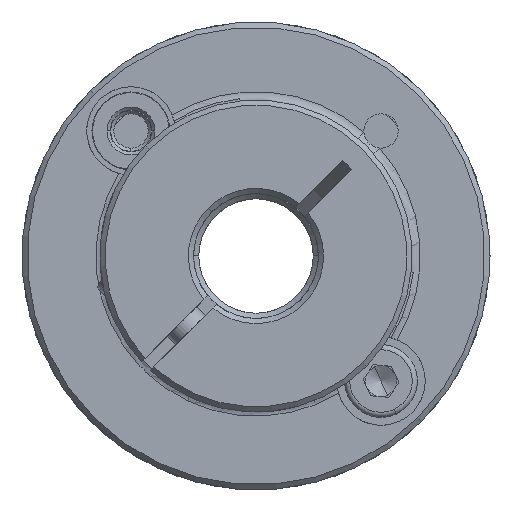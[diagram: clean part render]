
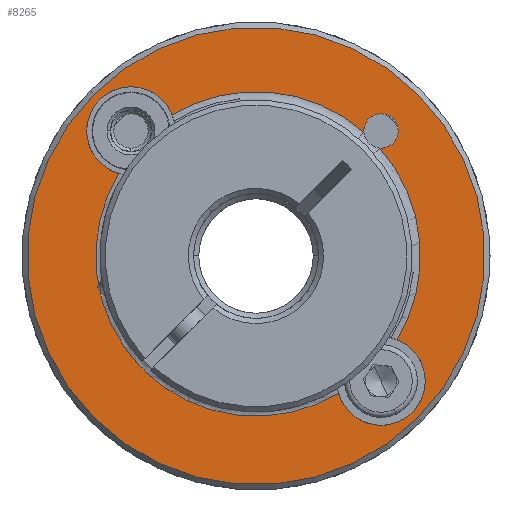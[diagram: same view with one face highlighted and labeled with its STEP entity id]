
A CAD part, front view. The second image highlights one B-rep face of the part: STEP entity #8265.
In plain terms, the highlighted planar face has unit normal (0, -1, 0).
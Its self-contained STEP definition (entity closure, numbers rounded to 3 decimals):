
#76 = CIRCLE ( 'NONE', #4867, 1.65 ) ;
#137 = AXIS2_PLACEMENT_3D ( 'NONE', #14240, #8520, #13227 ) ;
#142 = VERTEX_POINT ( 'NONE', #9589 ) ;
#275 = AXIS2_PLACEMENT_3D ( 'NONE', #4580, #10174, #13629 ) ;
#412 = CIRCLE ( 'NONE', #137, 1.65 ) ;
#425 = CIRCLE ( 'NONE', #6338, 15.8 ) ;
#497 = DIRECTION ( 'NONE',  ( 0., 1., 0. ) ) ;
#612 = CIRCLE ( 'NONE', #1966, 4.25 ) ;
#789 = EDGE_CURVE ( 'NONE', #14453, #14199, #612, .T. ) ;
#947 = EDGE_CURVE ( 'NONE', #7409, #6297, #425, .T. ) ;
#987 = CIRCLE ( 'NONE', #10334, 15.4 ) ;
#1020 = VERTEX_POINT ( 'NONE', #4647 ) ;
#1186 = CARTESIAN_POINT ( 'NONE',  ( 3.11, -12.641, 57.021 ) ) ;
#1312 = EDGE_CURVE ( 'NONE', #1020, #10589, #412, .T. ) ;
#1429 = FACE_OUTER_BOUND ( 'NONE', #9657, .T. ) ;
#1560 = DIRECTION ( 'NONE',  ( 0., 1., 0. ) ) ;
#1642 = CARTESIAN_POINT ( 'NONE',  ( 3.11, -12.641, 32.979 ) ) ;
#1688 = CARTESIAN_POINT ( 'NONE',  ( 3.006, -12.641, 55.374 ) ) ;
#1885 = AXIS2_PLACEMENT_3D ( 'NONE', #9864, #4003, #6342 ) ;
#1966 = AXIS2_PLACEMENT_3D ( 'NONE', #1642, #6188, #10968 ) ;
#2422 = CIRCLE ( 'NONE', #275, 15.8 ) ;
#2481 = EDGE_CURVE ( 'NONE', #10589, #13617, #8256, .T. ) ;
#2535 = DIRECTION ( 'NONE',  ( -0.707, 0., 0.707 ) ) ;
#2661 = EDGE_CURVE ( 'NONE', #10438, #7409, #10398, .T. ) ;
#2699 = CIRCLE ( 'NONE', #11242, 4.25 ) ;
#3198 = ORIENTED_EDGE ( 'NONE', *, *, #789, .T. ) ;
#3587 = DIRECTION ( 'NONE',  ( -0.707, 0., 0.707 ) ) ;
#3631 = DIRECTION ( 'NONE',  ( -0.707, 0., 0.707 ) ) ;
#3673 = VERTEX_POINT ( 'NONE', #3676 ) ;
#3676 = CARTESIAN_POINT ( 'NONE',  ( 6.646, -12.641, 29.444 ) ) ;
#3824 = ORIENTED_EDGE ( 'NONE', *, *, #14471, .T. ) ;
#3914 = DIRECTION ( 'NONE',  ( -0.707, 0., 0.707 ) ) ;
#3968 = EDGE_CURVE ( 'NONE', #142, #9555, #8425, .T. ) ;
#3993 = EDGE_CURVE ( 'NONE', #13617, #14453, #2422, .T. ) ;
#4003 = DIRECTION ( 'NONE',  ( 0., 1., 0. ) ) ;
#4288 = VERTEX_POINT ( 'NONE', #10072 ) ;
#4332 = FACE_BOUND ( 'NONE', #4638, .T. ) ;
#4404 = ORIENTED_EDGE ( 'NONE', *, *, #3968, .T. ) ;
#4580 = CARTESIAN_POINT ( 'NONE',  ( -8.911, -12.641, 45. ) ) ;
#4638 = EDGE_LOOP ( 'NONE', ( #7585, #14391, #7723, #10705, #3824, #7629, #8776, #13660, #3198, #7540, #11021, #4404 ) ) ;
#4647 = CARTESIAN_POINT ( 'NONE',  ( 1.943, -12.641, 58.188 ) ) ;
#4867 = AXIS2_PLACEMENT_3D ( 'NONE', #12899, #11629, #14136 ) ;
#4986 = AXIS2_PLACEMENT_3D ( 'NONE', #1186, #13787, #13686 ) ;
#5092 = CARTESIAN_POINT ( 'NONE',  ( -20.068, -12.641, 34.385 ) ) ;
#5106 = CARTESIAN_POINT ( 'NONE',  ( -8.911, -12.641, 45. ) ) ;
#5266 = CIRCLE ( 'NONE', #9155, 22. ) ;
#5324 = CARTESIAN_POINT ( 'NONE',  ( 6.115, -12.641, 29.974 ) ) ;
#5746 = CARTESIAN_POINT ( 'NONE',  ( -20.068, -12.641, 34.385 ) ) ;
#5863 = EDGE_CURVE ( 'NONE', #14199, #12112, #6186, .T. ) ;
#6186 = CIRCLE ( 'NONE', #9877, 4.25 ) ;
#6188 = DIRECTION ( 'NONE',  ( 0., 1., 0. ) ) ;
#6203 = CARTESIAN_POINT ( 'NONE',  ( 4.277, -12.641, 55.854 ) ) ;
#6297 = VERTEX_POINT ( 'NONE', #7314 ) ;
#6338 = AXIS2_PLACEMENT_3D ( 'NONE', #6424, #10049, #11488 ) ;
#6342 = DIRECTION ( 'NONE',  ( -0.707, 0., 0.707 ) ) ;
#6424 = CARTESIAN_POINT ( 'NONE',  ( -8.911, -12.641, 45. ) ) ;
#6559 = AXIS2_PLACEMENT_3D ( 'NONE', #13715, #8089, #13664 ) ;
#6876 = CIRCLE ( 'NONE', #6559, 22. ) ;
#6997 = VERTEX_POINT ( 'NONE', #9825 ) ;
#7026 = CARTESIAN_POINT ( 'NONE',  ( 3.11, -12.641, 32.979 ) ) ;
#7122 = EDGE_CURVE ( 'NONE', #4288, #10438, #2699, .T. ) ;
#7287 = CARTESIAN_POINT ( 'NONE',  ( -16.98, -12.641, 58.584 ) ) ;
#7308 = CARTESIAN_POINT ( 'NONE',  ( -0.974, -12.641, 31.803 ) ) ;
#7314 = CARTESIAN_POINT ( 'NONE',  ( 1.463, -12.641, 56.917 ) ) ;
#7409 = VERTEX_POINT ( 'NONE', #7287 ) ;
#7540 = ORIENTED_EDGE ( 'NONE', *, *, #5863, .T. ) ;
#7585 = ORIENTED_EDGE ( 'NONE', *, *, #7763, .T. ) ;
#7629 = ORIENTED_EDGE ( 'NONE', *, *, #1312, .T. ) ;
#7723 = ORIENTED_EDGE ( 'NONE', *, *, #2661, .T. ) ;
#7763 = EDGE_CURVE ( 'NONE', #9555, #4288, #14613, .T. ) ;
#8005 = CARTESIAN_POINT ( 'NONE',  ( -19.663, -12.641, 34.067 ) ) ;
#8089 = DIRECTION ( 'NONE',  ( 0., -1., 0. ) ) ;
#8094 = DIRECTION ( 'NONE',  ( 0., -1., 0. ) ) ;
#8256 = CIRCLE ( 'NONE', #4986, 1.65 ) ;
#8265 = ADVANCED_FACE ( 'NONE', ( #4332, #1429 ), #10542, .T. ) ;
#8374 = CARTESIAN_POINT ( 'NONE',  ( -8.911, -12.641, 45. ) ) ;
#8425 = B_SPLINE_CURVE_WITH_KNOTS ( 'NONE', 3,
 ( #14917, #8005, #12638, #5746 ),
 .UNSPECIFIED., .F., .F.,
 ( 4, 4 ),
 ( 0., 1. ),
 .UNSPECIFIED. ) ;
#8520 = DIRECTION ( 'NONE',  ( 0., 1., 0. ) ) ;
#8657 = ORIENTED_EDGE ( 'NONE', *, *, #10884, .T. ) ;
#8683 = CARTESIAN_POINT ( 'NONE',  ( -23.937, -12.641, 60.026 ) ) ;
#8776 = ORIENTED_EDGE ( 'NONE', *, *, #2481, .T. ) ;
#9077 = CARTESIAN_POINT ( 'NONE',  ( -20.932, -12.641, 57.021 ) ) ;
#9155 = AXIS2_PLACEMENT_3D ( 'NONE', #13999, #12761, #2535 ) ;
#9402 = AXIS2_PLACEMENT_3D ( 'NONE', #8374, #1560, #3631 ) ;
#9555 = VERTEX_POINT ( 'NONE', #5092 ) ;
#9589 = CARTESIAN_POINT ( 'NONE',  ( -19.526, -12.641, 33.843 ) ) ;
#9657 = EDGE_LOOP ( 'NONE', ( #9987, #8657 ) ) ;
#9825 = CARTESIAN_POINT ( 'NONE',  ( -24.467, -12.641, 60.556 ) ) ;
#9864 = CARTESIAN_POINT ( 'NONE',  ( -20.932, -12.641, 57.021 ) ) ;
#9877 = AXIS2_PLACEMENT_3D ( 'NONE', #7026, #10489, #3587 ) ;
#9987 = ORIENTED_EDGE ( 'NONE', *, *, #10975, .T. ) ;
#10049 = DIRECTION ( 'NONE',  ( 0., 1., 0. ) ) ;
#10072 = CARTESIAN_POINT ( 'NONE',  ( -22.108, -12.641, 52.937 ) ) ;
#10174 = DIRECTION ( 'NONE',  ( 0., 1., 0. ) ) ;
#10334 = AXIS2_PLACEMENT_3D ( 'NONE', #5106, #497, #3914 ) ;
#10357 = AXIS2_PLACEMENT_3D ( 'NONE', #11461, #8094, #12628 ) ;
#10398 = CIRCLE ( 'NONE', #1885, 4.25 ) ;
#10438 = VERTEX_POINT ( 'NONE', #8683 ) ;
#10489 = DIRECTION ( 'NONE',  ( 0., 1., 0. ) ) ;
#10542 = PLANE ( 'NONE',  #10357 ) ;
#10589 = VERTEX_POINT ( 'NONE', #6203 ) ;
#10684 = CARTESIAN_POINT ( 'NONE',  ( 4.674, -12.641, 36.931 ) ) ;
#10705 = ORIENTED_EDGE ( 'NONE', *, *, #947, .T. ) ;
#10884 = EDGE_CURVE ( 'NONE', #6997, #3673, #6876, .T. ) ;
#10968 = DIRECTION ( 'NONE',  ( -0.707, 0., 0.707 ) ) ;
#10975 = EDGE_CURVE ( 'NONE', #3673, #6997, #5266, .T. ) ;
#11021 = ORIENTED_EDGE ( 'NONE', *, *, #14567, .T. ) ;
#11242 = AXIS2_PLACEMENT_3D ( 'NONE', #9077, #13591, #12494 ) ;
#11461 = CARTESIAN_POINT ( 'NONE',  ( -8.911, -12.641, 45. ) ) ;
#11488 = DIRECTION ( 'NONE',  ( -0.707, 0., 0.707 ) ) ;
#11629 = DIRECTION ( 'NONE',  ( 0., 1., 0. ) ) ;
#12112 = VERTEX_POINT ( 'NONE', #7308 ) ;
#12494 = DIRECTION ( 'NONE',  ( -0.707, 0., 0.707 ) ) ;
#12628 = DIRECTION ( 'NONE',  ( -0.707, 0., 0.707 ) ) ;
#12638 = CARTESIAN_POINT ( 'NONE',  ( -19.844, -12.641, 34.248 ) ) ;
#12761 = DIRECTION ( 'NONE',  ( 0., -1., 0. ) ) ;
#12899 = CARTESIAN_POINT ( 'NONE',  ( 3.11, -12.641, 57.021 ) ) ;
#13227 = DIRECTION ( 'NONE',  ( -0.707, 0., 0.707 ) ) ;
#13591 = DIRECTION ( 'NONE',  ( 0., 1., 0. ) ) ;
#13617 = VERTEX_POINT ( 'NONE', #1688 ) ;
#13629 = DIRECTION ( 'NONE',  ( -0.707, 0., 0.707 ) ) ;
#13660 = ORIENTED_EDGE ( 'NONE', *, *, #3993, .T. ) ;
#13664 = DIRECTION ( 'NONE',  ( -0.707, 0., 0.707 ) ) ;
#13686 = DIRECTION ( 'NONE',  ( -0.707, 0., 0.707 ) ) ;
#13715 = CARTESIAN_POINT ( 'NONE',  ( -8.911, -12.641, 45. ) ) ;
#13787 = DIRECTION ( 'NONE',  ( 0., 1., 0. ) ) ;
#13999 = CARTESIAN_POINT ( 'NONE',  ( -8.911, -12.641, 45. ) ) ;
#14136 = DIRECTION ( 'NONE',  ( -0.707, 0., 0.707 ) ) ;
#14199 = VERTEX_POINT ( 'NONE', #5324 ) ;
#14240 = CARTESIAN_POINT ( 'NONE',  ( 3.11, -12.641, 57.021 ) ) ;
#14391 = ORIENTED_EDGE ( 'NONE', *, *, #7122, .T. ) ;
#14453 = VERTEX_POINT ( 'NONE', #10684 ) ;
#14471 = EDGE_CURVE ( 'NONE', #6297, #1020, #76, .T. ) ;
#14567 = EDGE_CURVE ( 'NONE', #12112, #142, #987, .T. ) ;
#14613 = CIRCLE ( 'NONE', #9402, 15.4 ) ;
#14917 = CARTESIAN_POINT ( 'NONE',  ( -19.526, -12.641, 33.843 ) ) ;
